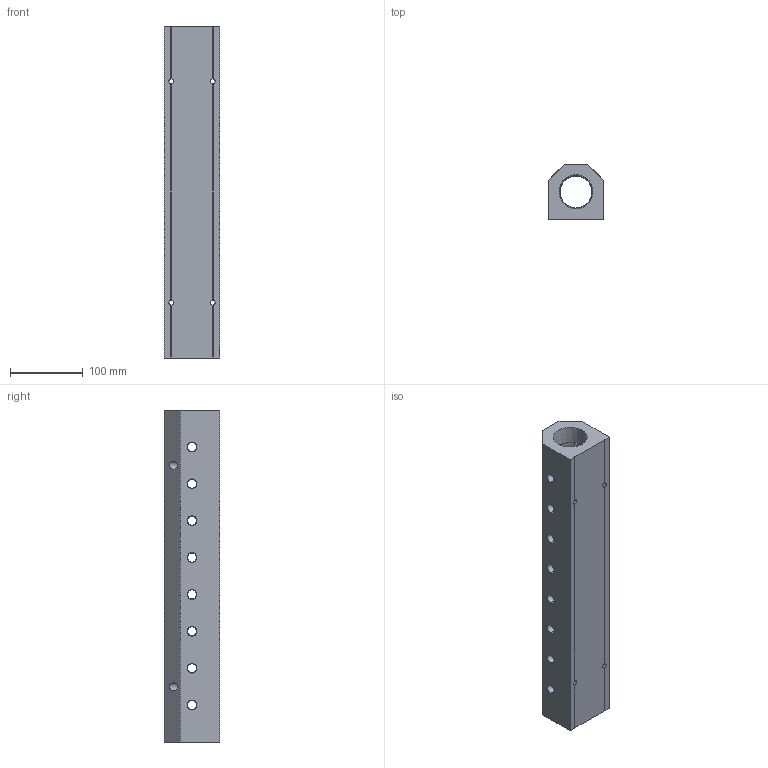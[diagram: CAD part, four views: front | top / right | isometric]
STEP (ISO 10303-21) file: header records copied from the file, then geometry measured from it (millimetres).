
FILE_DESCRIPTION (( 'STEP AP214' ), '1' );
FILE_NAME ('ALM8ACE-N4N24-457B.step', '2022-02-07T07:46:29', ( '' ), ( '' ), 'SwSTEP 2.0', 'SolidWorks 2020', '' );
FILE_SCHEMA (( 'AUTOMOTIVE_DESIGN' ));
Length unit declared in the file: millimetre
Products named in the file (1): ALM8ACE-N4N24-457B
Bounding box: 76.2 x 76.2 x 457 mm (x, y, z)
Volume: 1653261.7 mm3; surface area: 213587.4 mm2
Topology: 1 solids, 1 shells, 360 faces, 977 edges, 638 vertices
Faces by surface type: plane 236, bspline 54, cone 52, cylinder 18
Entity records: 20193 total; most frequent: CARTESIAN_POINT 8006, ORIENTED_EDGE 1954, DIRECTION 1503, EDGE_CURVE 977, VECTOR 721, LINE 721, VERTEX_POINT 638, EDGE_LOOP 437
